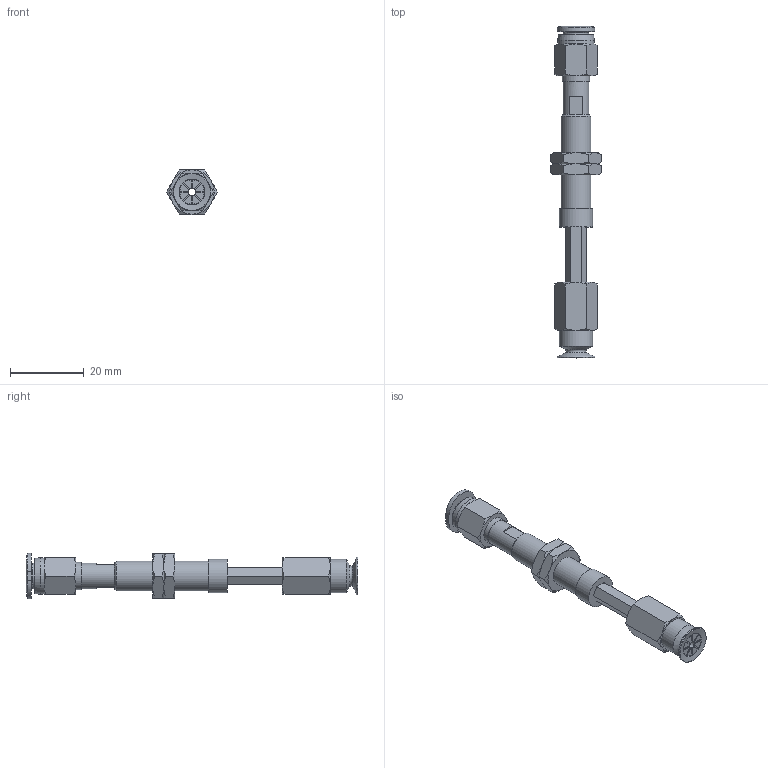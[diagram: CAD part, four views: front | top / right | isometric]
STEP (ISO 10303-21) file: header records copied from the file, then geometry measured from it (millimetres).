
FILE_DESCRIPTION(('STEP AP203'),'1');
FILE_NAME('-O.stp','2025-08-12T08:07:22',(' '),(' '),'Spatial InterOp 3D',' ',' ');
FILE_SCHEMA(('CONFIG_CONTROL_DESIGN'));
Length unit declared in the file: millimetre
Products named in the file (7): BNABPATH-10B-15-※-O; NAPATH-10A-15--F; Nut-10A-S; PC-C_06-M5; BPAG-10B-※; ADAPTER; NAPATH-10A-15--M
Assembly tree (7 placements, depth 2):
  BNABPATH-10B-15-※-O
    NAPATH-10A-15--F
    Nut-10A-S  x2
    PC-C_06-M5
    BPAG-10B-※
    ADAPTER
    NAPATH-10A-15--M
Bounding box: 13.86 x 89.98 x 12.4 mm (x, y, z)
Volume: 4766.1 mm3; surface area: 5849.9 mm2
Topology: 7 solids, 7 shells, 208 faces, 464 edges, 286 vertices
Faces by surface type: plane 94, cone 62, cylinder 32, torus 13, bspline 4, revolution 3
Full cylindrical faces by diameter (mm): 2 x3, 4 x4, 4.134 x1, 5 x1, 6 x2, 7 x3, 7.188 x2, 7.4 x1, 8 x1, 8.2 x1, 9 x2, 10 x1
Entity records: 5598 total; most frequent: CARTESIAN_POINT 1448, DIRECTION 789, ORIENTED_EDGE 716, EDGE_CURVE 358, AXIS2_PLACEMENT_3D 325, EDGE_LOOP 258, VERTEX_POINT 248, FACE_OUTER_BOUND 219
